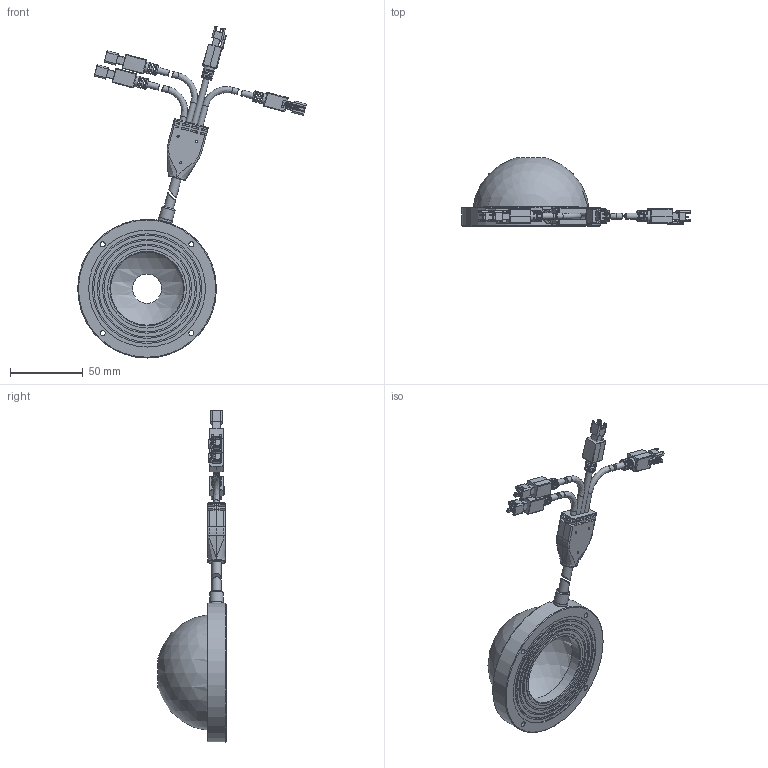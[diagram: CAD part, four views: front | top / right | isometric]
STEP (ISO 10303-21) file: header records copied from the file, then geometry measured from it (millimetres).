
FILE_DESCRIPTION (( 'STEP AP203' ), '1' );
FILE_NAME ('OPT-MSRID80-X-V1.0尨砩芞.STEP', '2025-02-12T03:23:25', ( '' ), ( '' ), 'SwSTEP 2.0', 'SolidWorks 2016', '' );
FILE_SCHEMA (( 'CONFIG_CONTROL_DESIGN' ));
Length unit declared in the file: millimetre
Products named in the file (1): OPT-MSRID80-X-V1.0尨砩芞
Bounding box: 156.57 x 46.73 x 227.41 mm (x, y, z)
Surface area: 53849.2 mm2 (no closed solid volume)
Topology: 0 solids, 29 shells, 943 faces, 2639 edges, 1703 vertices
Faces by surface type: plane 501, cylinder 321, bspline 55, cone 50, torus 14, sphere 2
Full cylindrical faces by diameter (mm): 1.1 x4, 1.5 x3, 1.6 x4, 2.4 x4, 2.5 x4, 3.5 x4, 4.1 x10, 5 x1, 6.4 x3, 7.5 x4, 8.6 x1, 9.3 x1, 9.8 x1, 20 x1, 50 x1, 54 x1, 59 x1, 61 x1, 66 x1, 68 x1, 73 x1, 75 x1, 80 x1, 80.6 x1, 92.6 x1, 95 x1
Entity records: 36387 total; most frequent: CARTESIAN_POINT 13946, ORIENTED_EDGE 4595, DIRECTION 4219, EDGE_CURVE 2481, VERTEX_POINT 1652, VECTOR 1511, LINE 1511, AXIS2_PLACEMENT_3D 1354
